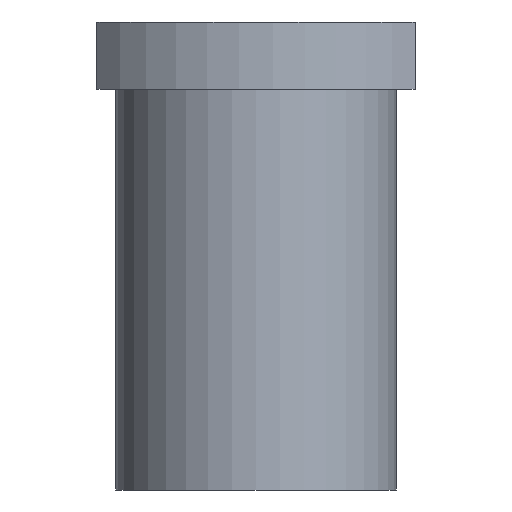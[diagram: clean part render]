
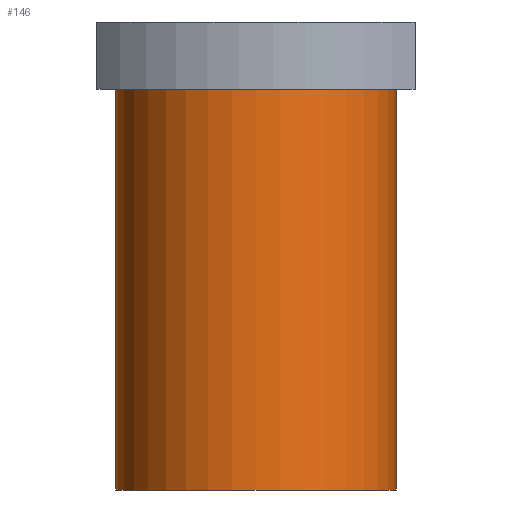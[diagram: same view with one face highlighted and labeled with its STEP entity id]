
A CAD part, front view. The second image highlights one B-rep face of the part: STEP entity #146.
In plain terms, the highlighted cylindrical face has radius 37.5 mm (diameter 75 mm), a partial arc.
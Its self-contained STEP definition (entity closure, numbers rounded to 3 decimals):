
#146=ADVANCED_FACE('',(#308),#309,.T.);
#308=FACE_OUTER_BOUND('',#463,.T.);
#309=CYLINDRICAL_SURFACE('',#464,37.5);
#463=EDGE_LOOP('',(#831,#832,#833,#834));
#464=AXIS2_PLACEMENT_3D('',#835,#836,#837);
#831=ORIENTED_EDGE('',*,*,#847,.T.);
#832=ORIENTED_EDGE('',*,*,#990,.F.);
#833=ORIENTED_EDGE('',*,*,#849,.T.);
#834=ORIENTED_EDGE('',*,*,#987,.T.);
#835=CARTESIAN_POINT('',(0.,0.0,-62.5));
#836=DIRECTION('',(0.,0.0,-1.0));
#837=DIRECTION('',(-1.0,0.0,0.));
#847=EDGE_CURVE('',#993,#994,#995,.T.);
#849=EDGE_CURVE('',#998,#996,#999,.T.);
#987=EDGE_CURVE('',#996,#993,#1199,.T.);
#990=EDGE_CURVE('',#998,#994,#1202,.T.);
#993=VERTEX_POINT('',#1205);
#994=VERTEX_POINT('',#1206);
#995=LINE('',#1207,#1208);
#996=VERTEX_POINT('',#1209);
#998=VERTEX_POINT('',#1211);
#999=LINE('',#1212,#1213);
#1199=CIRCLE('',#1585,37.5);
#1202=CIRCLE('',#1588,37.5);
#1205=CARTESIAN_POINT('',(-37.5,0.,-18.0));
#1206=CARTESIAN_POINT('',(-37.5,0.0,-125.0));
#1207=CARTESIAN_POINT('',(-37.5,0.,-62.5));
#1208=VECTOR('',#1590,1.0);
#1209=CARTESIAN_POINT('',(37.5,0.,-18.0));
#1211=CARTESIAN_POINT('',(37.5,0.,-125.0));
#1212=CARTESIAN_POINT('',(37.5,0.,-62.5));
#1213=VECTOR('',#1594,1.0);
#1585=AXIS2_PLACEMENT_3D('',#1800,#1801,#1802);
#1588=AXIS2_PLACEMENT_3D('',#1803,#1804,#1805);
#1590=DIRECTION('',(0.,0.0,-1.0));
#1594=DIRECTION('',(0.,-0.0,1.0));
#1800=CARTESIAN_POINT('',(0.,0.0,-18.0));
#1801=DIRECTION('',(0.,0.0,-1.0));
#1802=DIRECTION('',(-1.0,0.0,0.));
#1803=CARTESIAN_POINT('',(0.,0.0,-125.0));
#1804=DIRECTION('',(0.,0.0,-1.0));
#1805=DIRECTION('',(-1.0,0.0,0.));
